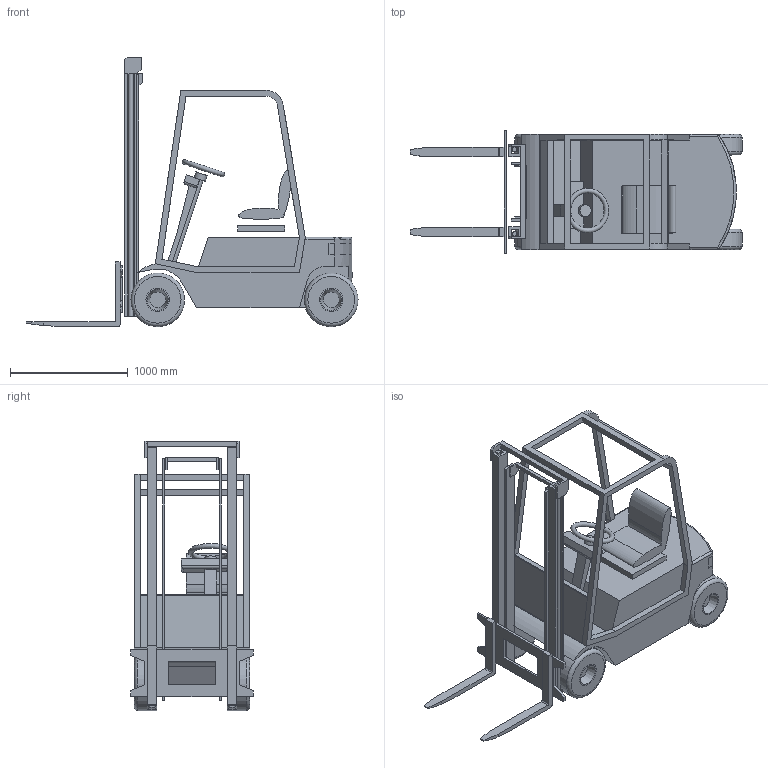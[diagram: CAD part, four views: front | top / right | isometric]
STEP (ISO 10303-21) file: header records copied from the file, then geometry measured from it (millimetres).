
FILE_DESCRIPTION((''),'2;1');
FILE_NAME('C:\Users\Wes\Downloads\3D Fork Truck.stp','2011-11-06T09:34:09',('Wes'),(''),'Autodesk Inventor 2011','Autodesk Inventor 2011','');
FILE_SCHEMA(('AUTOMOTIVE_DESIGN { 1 0 10303 214 1 1 1 1 }'));
Length unit declared in the file: millimetre
Products named in the file (27): Assembly1; Part2; Part4; Part6; Part8; Part10; Part12; Part14; Part16; Part18; Part20; Part22; Part24; Part26; Part28; Part30; Part32; Part34; Part36; Part38; Part40; Part42; Part44; Part46; Part48; Part50; Part52
Assembly tree (26 placements, depth 2):
  Assembly1
    Part2
    Part4
    Part6
    Part8
    Part10
    Part12
    Part14
    Part16
    Part18
    Part20
    Part22
    Part24
    Part26
    Part28
    Part30
    Part32
    Part34
    Part36
    Part38
    Part40
    Part42
    Part44
    Part46
    Part48
    Part50
    Part52
Bounding box: 2823 x 1040 x 2290 mm (x, y, z)
Volume: 924815162.5 mm3; surface area: 19747291 mm2
Topology: 26 solids, 26 shells, 278 faces, 667 edges, 437 vertices
Faces by surface type: plane 222, cylinder 38, torus 10, cone 4, bspline 4
Full cylindrical faces by diameter (mm): 40 x2, 100 x1, 200 x8, 456 x4
Entity records: 8747 total; most frequent: CARTESIAN_POINT 1560, DIRECTION 1367, ORIENTED_EDGE 1270, EDGE_CURVE 635, VECTOR 529, LINE 529, VERTEX_POINT 432, AXIS2_PLACEMENT_3D 419
